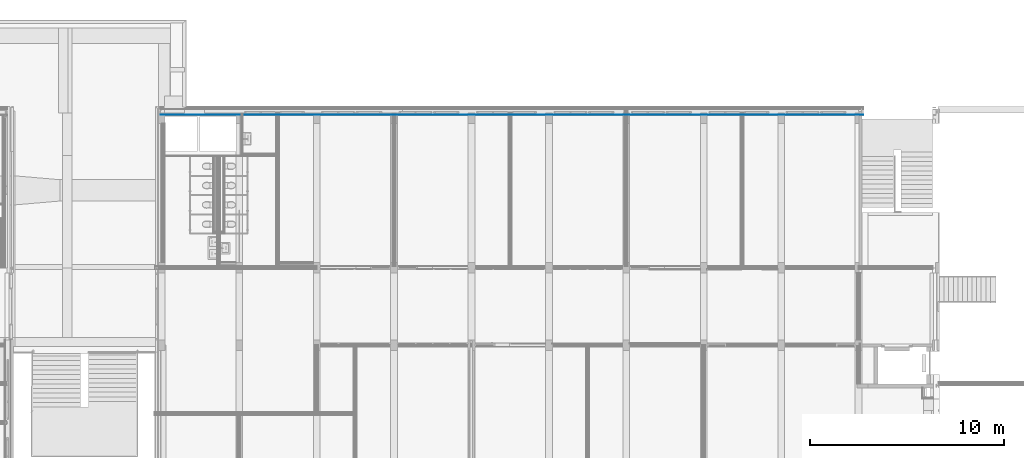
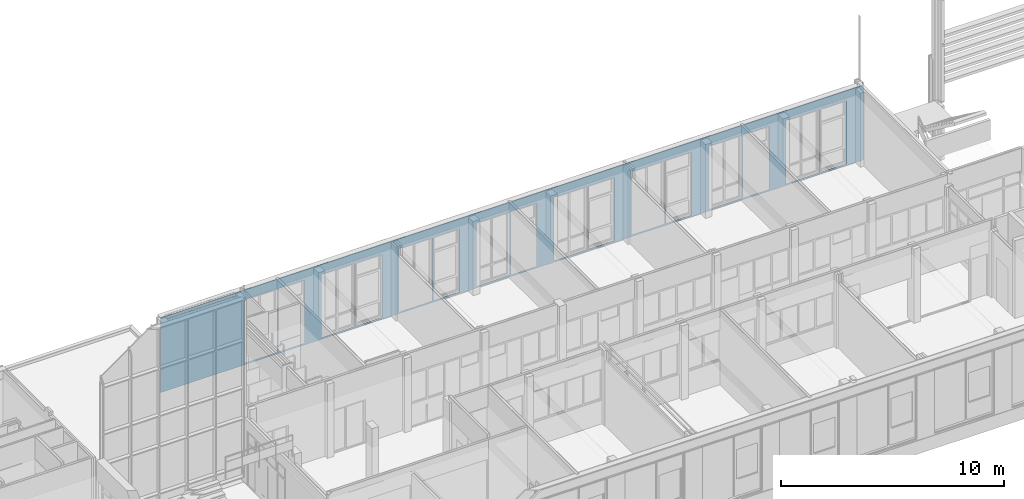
# One storey, part 58 of 94: 1 building element part, 16 openings, 1 element without a shape of its own.
"""IFC2X3 building model written with IfcOpenShell, lengths in millimetres."""

from ifc_helpers import new_model, entity, si_unit, converted_unit, derived_unit, money_unit, direction, frame, origin_with_axes, place, context, subcontext, project, spatial, faceted_brep, material, type_object, element, aggregate, save


model = new_model("IFC2X3")

# Units and contexts
model_context = context("Model", 3, precision=0.01, world=origin_with_axes(), true_north=direction((0.0, 1.0)))
body_context = subcontext(model_context, "Body", "Model", "MODEL_VIEW")
ifc_project = project(units=[si_unit("LENGTHUNIT", "METRE", prefix="MILLI"), si_unit("AREAUNIT", "SQUARE_METRE"), si_unit("VOLUMEUNIT", "CUBIC_METRE"), converted_unit("PLANEANGLEUNIT", "DEGREE", entity("IfcPlaneAngleMeasure", 0.0174532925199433), si_unit("PLANEANGLEUNIT", "RADIAN"), dimensions=[0, 0, 0, 0, 0, 0, 0]), money_unit("EUR"), converted_unit("TIMEUNIT", "Year", entity("IfcTimeMeasure", 31557600.0), si_unit("TIMEUNIT", "SECOND"), dimensions=[0, 0, 1, 0, 0, 0, 0]), si_unit("MASSUNIT", "GRAM", prefix="KILO"), si_unit("THERMODYNAMICTEMPERATUREUNIT", "DEGREE_CELSIUS"), si_unit("LUMINOUSINTENSITYUNIT", "LUMEN"), si_unit("ENERGYUNIT", "JOULE", prefix="MEGA"), derived_unit("THERMALCONDUCTANCEUNIT", [(si_unit("POWERUNIT", "WATT"), 1), (si_unit("LENGTHUNIT", "METRE"), -1), (si_unit("THERMODYNAMICTEMPERATUREUNIT", "KELVIN"), -1)]), derived_unit("SPECIFICHEATCAPACITYUNIT", [(si_unit("ENERGYUNIT", "JOULE"), 1), (si_unit("MASSUNIT", "GRAM", prefix="KILO"), -1), (si_unit("THERMODYNAMICTEMPERATUREUNIT", "KELVIN"), -1)]), derived_unit("MASSDENSITYUNIT", [(si_unit("MASSUNIT", "GRAM", prefix="KILO"), 1), (si_unit("VOLUMEUNIT", "CUBIC_METRE"), -1)])], contexts=[model_context])

# Site, building, storey
site_placement = place(None, origin_with_axes())
site = spatial("IfcSite", under=ifc_project, at=site_placement, Name="<site naam>", CompositionType="ELEMENT")
building_placement = place(site_placement, origin_with_axes())
building = spatial("IfcBuilding", under=site, at=building_placement, Name="<Naam gebouw>", CompositionType="ELEMENT")
storey_placement = place(building_placement, frame((0.0, 0.0, 4250.0), z_axis=(0.0, 0.0, 1.0), x_axis=(1.0, 0.0, 0.0)))
storey = spatial("IfcBuildingStorey", under=building, at=storey_placement, Name="01 1e verdieping", CompositionType="ELEMENT", Elevation=4250.0)

# Wall, openings, building element part
wall_type = type_object("IfcWallType", Name="HSB_285 gevelbeplating 420", PredefinedType="NOTDEFINED")
wall_placement = place(storey_placement, frame((48251.99999966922, 20298.00000000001, 0.0), z_axis=(0.0, 0.0, 1.0), x_axis=(-1.0, 0.0, 0.0)))
wall = element("IfcWall", 1, at=wall_placement, inside=storey, type_object=wall_type, Name="21_Binnenwand_HSB_285")
opening_1_placement = place(wall_placement, frame((3140.999999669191, 0.0, 99.99999999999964), z_axis=(0.0, 0.0, 1.0), x_axis=(1.0, 0.0, 0.0)))
element("IfcOpeningElement", 2, at=opening_1_placement, cuts=wall, Name="21_BU-A-12a sp_305", context=body_context, shape_type="Brep", body=[
    faceted_brep([(850.9999999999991, 213.000000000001, 3450.0), (-850.9999999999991, 213.000000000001, 3450.0), (-850.9999999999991, -1.000000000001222, 3450.0), (850.9999999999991, -1.000000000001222, 3450.0), (850.9999999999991, 421.000000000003, 3450.0), (-850.9999999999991, 421.000000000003, 3450.0), (-850.9999999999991, 213.000000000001, 0.0), (-850.9999999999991, -1.000000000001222, 0.0), (850.9999999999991, -1.000000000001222, 0.0), (850.9999999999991, 213.000000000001, 0.0), (850.9999999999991, 421.000000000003, 0.0), (-850.9999999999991, 421.000000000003, 0.0)], [[[0, 1, 2, 3]], [[1, 0, 4, 5]], [[1, 6, 7, 2]], [[2, 7, 8, 3]], [[9, 0, 3, 8]], [[0, 9, 10, 4]], [[4, 10, 11, 5]], [[6, 1, 5, 11]], [[6, 9, 8, 7]], [[9, 6, 11, 10]]]),
])
opening_2_placement = place(wall_placement, frame((1551.00001094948, 0.0, 99.99999999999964), z_axis=(0.0, 0.0, 1.0), x_axis=(1.0, 0.0, 0.0)))
element("IfcOpeningElement", 3, at=opening_2_placement, cuts=wall, Name="21_BU-A-12b sp_305", context=body_context, shape_type="Brep", body=[
    faceted_brep([(662.9999999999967, 213.000000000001, 3450.0), (-662.9999999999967, 213.000000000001, 3450.0), (-662.9999999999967, -1.000000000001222, 3450.0), (662.9999999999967, -1.000000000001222, 3450.0), (662.9999999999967, 421.000000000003, 3450.0), (-662.9999999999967, 421.000000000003, 3450.0), (-662.9999999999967, 213.000000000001, 0.0), (-662.9999999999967, -1.000000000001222, 0.0), (662.9999999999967, -1.000000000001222, 0.0), (662.9999999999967, 213.000000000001, 0.0), (662.9999999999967, 421.000000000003, 0.0), (-662.9999999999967, 421.000000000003, 0.0)], [[[0, 1, 2, 3]], [[1, 0, 4, 5]], [[1, 6, 7, 2]], [[2, 7, 8, 3]], [[9, 0, 3, 8]], [[0, 9, 10, 4]], [[4, 10, 11, 5]], [[6, 1, 5, 11]], [[6, 9, 8, 7]], [[9, 6, 11, 10]]]),
])
opening_3_placement = place(wall_placement, frame((7140.999999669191, 0.0, 99.99999999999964), z_axis=(0.0, 0.0, 1.0), x_axis=(1.0, 0.0, 0.0)))
element("IfcOpeningElement", 4, at=opening_3_placement, cuts=wall, Name="21_BU-A-12a sp_305", context=body_context, shape_type="Brep", body=[
    faceted_brep([(850.9999999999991, 213.000000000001, 3450.0), (-850.9999999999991, 213.000000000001, 3450.0), (-850.9999999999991, -1.000000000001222, 3450.0), (850.9999999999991, -1.000000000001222, 3450.0), (850.9999999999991, 421.000000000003, 3450.0), (-850.9999999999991, 421.000000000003, 3450.0), (-850.9999999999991, 213.000000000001, 0.0), (-850.9999999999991, -1.000000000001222, 0.0), (850.9999999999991, -1.000000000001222, 0.0), (850.9999999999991, 213.000000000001, 0.0), (850.9999999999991, 421.000000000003, 0.0), (-850.9999999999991, 421.000000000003, 0.0)], [[[0, 1, 2, 3]], [[1, 0, 4, 5]], [[1, 6, 7, 2]], [[2, 7, 8, 3]], [[9, 0, 3, 8]], [[0, 9, 10, 4]], [[4, 10, 11, 5]], [[6, 1, 5, 11]], [[6, 9, 8, 7]], [[9, 6, 11, 10]]]),
])
opening_4_placement = place(wall_placement, frame((9550.999999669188, 0.0, 99.99999999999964), z_axis=(0.0, 0.0, 1.0), x_axis=(1.0, 0.0, 0.0)))
element("IfcOpeningElement", 5, at=opening_4_placement, cuts=wall, Name="21_BU-A-12b sp_305", context=body_context, shape_type="Brep", body=[
    faceted_brep([(662.9999999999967, 213.000000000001, 3450.0), (-662.9999999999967, 213.000000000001, 3450.0), (-662.9999999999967, -1.000000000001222, 3450.0), (662.9999999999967, -1.000000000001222, 3450.0), (662.9999999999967, 421.000000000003, 3450.0), (-662.9999999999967, 421.000000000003, 3450.0), (-662.9999999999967, 213.000000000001, 0.0), (-662.9999999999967, -1.000000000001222, 0.0), (662.9999999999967, -1.000000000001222, 0.0), (662.9999999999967, 213.000000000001, 0.0), (662.9999999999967, 421.000000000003, 0.0), (-662.9999999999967, 421.000000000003, 0.0)], [[[0, 1, 2, 3]], [[1, 0, 4, 5]], [[1, 6, 7, 2]], [[2, 7, 8, 3]], [[9, 0, 3, 8]], [[0, 9, 10, 4]], [[4, 10, 11, 5]], [[6, 1, 5, 11]], [[6, 9, 8, 7]], [[9, 6, 11, 10]]]),
])
opening_5_placement = place(wall_placement, frame((11140.99999966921, 0.0, 99.99999999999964), z_axis=(0.0, 0.0, 1.0), x_axis=(1.0, 0.0, 0.0)))
element("IfcOpeningElement", 6, at=opening_5_placement, cuts=wall, Name="21_BU-A-12a sp_305", context=body_context, shape_type="Brep", body=[
    faceted_brep([(850.9999999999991, 213.000000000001, 3450.0), (-850.9999999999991, 213.000000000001, 3450.0), (-850.9999999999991, -1.000000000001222, 3450.0), (850.9999999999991, -1.000000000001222, 3450.0), (850.9999999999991, 421.000000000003, 3450.0), (-850.9999999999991, 421.000000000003, 3450.0), (-850.9999999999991, 213.000000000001, 0.0), (-850.9999999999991, -1.000000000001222, 0.0), (850.9999999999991, -1.000000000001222, 0.0), (850.9999999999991, 213.000000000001, 0.0), (850.9999999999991, 421.000000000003, 0.0), (-850.9999999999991, 421.000000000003, 0.0)], [[[0, 1, 2, 3]], [[1, 0, 4, 5]], [[1, 6, 7, 2]], [[2, 7, 8, 3]], [[9, 0, 3, 8]], [[0, 9, 10, 4]], [[4, 10, 11, 5]], [[6, 1, 5, 11]], [[6, 9, 8, 7]], [[9, 6, 11, 10]]]),
])
opening_6_placement = place(wall_placement, frame((15140.99998838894, 0.0, 99.99999999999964), z_axis=(0.0, 0.0, 1.0), x_axis=(1.0, 0.0, 0.0)))
element("IfcOpeningElement", 7, at=opening_6_placement, cuts=wall, Name="21_BU-A-12a sp_305", context=body_context, shape_type="Brep", body=[
    faceted_brep([(850.9999999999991, 212.9999999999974, 3450.0), (-850.9999999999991, 212.9999999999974, 3450.0), (-850.9999999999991, -1.000000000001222, 3450.0), (850.9999999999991, -1.000000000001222, 3450.0), (850.9999999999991, 421.000000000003, 3450.0), (-850.9999999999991, 421.000000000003, 3450.0), (-850.9999999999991, 212.9999999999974, 0.0), (-850.9999999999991, -1.000000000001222, 0.0), (850.9999999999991, -1.000000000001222, 0.0), (850.9999999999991, 212.9999999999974, 0.0), (850.9999999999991, 421.000000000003, 0.0), (-850.9999999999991, 421.000000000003, 0.0)], [[[0, 1, 2, 3]], [[1, 0, 4, 5]], [[1, 6, 7, 2]], [[2, 7, 8, 3]], [[9, 0, 3, 8]], [[0, 9, 10, 4]], [[4, 10, 11, 5]], [[6, 1, 5, 11]], [[6, 9, 8, 7]], [[9, 6, 11, 10]]]),
])
opening_7_placement = place(wall_placement, frame((13550.99999966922, 0.0, 99.99999999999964), z_axis=(0.0, 0.0, 1.0), x_axis=(1.0, 0.0, 0.0)))
element("IfcOpeningElement", 8, at=opening_7_placement, cuts=wall, Name="21_BU-A-12b sp_305", context=body_context, shape_type="Brep", body=[
    faceted_brep([(662.9999999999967, 213.000000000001, 3450.0), (-662.9999999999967, 213.000000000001, 3450.0), (-662.9999999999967, -1.000000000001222, 3450.0), (662.9999999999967, -1.000000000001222, 3450.0), (662.9999999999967, 421.000000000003, 3450.0), (-662.9999999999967, 421.000000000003, 3450.0), (-662.9999999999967, 213.000000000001, 0.0), (-662.9999999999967, -1.000000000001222, 0.0), (662.9999999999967, -1.000000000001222, 0.0), (662.9999999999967, 213.000000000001, 0.0), (662.9999999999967, 421.000000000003, 0.0), (-662.9999999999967, 421.000000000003, 0.0)], [[[0, 1, 2, 3]], [[1, 0, 4, 5]], [[1, 6, 7, 2]], [[2, 7, 8, 3]], [[9, 0, 3, 8]], [[0, 9, 10, 4]], [[4, 10, 11, 5]], [[6, 1, 5, 11]], [[6, 9, 8, 7]], [[9, 6, 11, 10]]]),
])
opening_8_placement = place(wall_placement, frame((19140.98053610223, 0.0, 99.99999999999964), z_axis=(0.0, 0.0, 1.0), x_axis=(1.0, 0.0, 0.0)))
element("IfcOpeningElement", 9, at=opening_8_placement, cuts=wall, Name="21_BU-A-12a sp_305", context=body_context, shape_type="Brep", body=[
    faceted_brep([(850.9999999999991, 212.9999999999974, 3450.0), (-850.9999999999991, 212.9999999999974, 3450.0), (-850.9999999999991, -1.000000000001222, 3450.0), (850.9999999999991, -1.000000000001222, 3450.0), (850.9999999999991, 421.000000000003, 3450.0), (-850.9999999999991, 421.000000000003, 3450.0), (-850.9999999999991, 212.9999999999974, 0.0), (-850.9999999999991, -1.000000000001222, 0.0), (850.9999999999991, -1.000000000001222, 0.0), (850.9999999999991, 212.9999999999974, 0.0), (850.9999999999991, 421.000000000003, 0.0), (-850.9999999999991, 421.000000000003, 0.0)], [[[0, 1, 2, 3]], [[1, 0, 4, 5]], [[1, 6, 7, 2]], [[2, 7, 8, 3]], [[9, 0, 3, 8]], [[0, 9, 10, 4]], [[4, 10, 11, 5]], [[6, 1, 5, 11]], [[6, 9, 8, 7]], [[9, 6, 11, 10]]]),
])
opening_9_placement = place(wall_placement, frame((17550.99999966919, 0.0, 99.99999999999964), z_axis=(0.0, 0.0, 1.0), x_axis=(1.0, 0.0, 0.0)))
element("IfcOpeningElement", 10, at=opening_9_placement, cuts=wall, Name="21_BU-A-12b sp_305", context=body_context, shape_type="Brep", body=[
    faceted_brep([(663.0000000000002, 212.9999999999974, 3450.0), (-663.0000000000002, 212.9999999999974, 3450.0), (-663.0000000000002, -1.000000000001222, 3450.0), (663.0000000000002, -1.000000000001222, 3450.0), (663.0000000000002, 421.000000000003, 3450.0), (-663.0000000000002, 421.000000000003, 3450.0), (-663.0000000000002, 212.9999999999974, 0.0), (-663.0000000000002, -1.000000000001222, 0.0), (663.0000000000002, -1.000000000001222, 0.0), (663.0000000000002, 212.9999999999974, 0.0), (663.0000000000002, 421.000000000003, 0.0), (-663.0000000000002, 421.000000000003, 0.0)], [[[0, 1, 2, 3]], [[1, 0, 4, 5]], [[1, 6, 7, 2]], [[2, 7, 8, 3]], [[9, 0, 3, 8]], [[0, 9, 10, 4]], [[4, 10, 11, 5]], [[6, 1, 5, 11]], [[6, 9, 8, 7]], [[9, 6, 11, 10]]]),
])
opening_10_placement = place(wall_placement, frame((5550.999999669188, 0.0, 99.99999999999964), z_axis=(0.0, 0.0, 1.0), x_axis=(1.0, 0.0, 0.0)))
element("IfcOpeningElement", 11, at=opening_10_placement, cuts=wall, Name="21_BU-A-12b sp_305", context=body_context, shape_type="Brep", body=[
    faceted_brep([(662.9999999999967, 213.000000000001, 3450.0), (-662.9999999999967, 213.000000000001, 3450.0), (-662.9999999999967, -1.000000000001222, 3450.0), (662.9999999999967, -1.000000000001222, 3450.0), (662.9999999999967, 421.000000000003, 3450.0), (-662.9999999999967, 421.000000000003, 3450.0), (-662.9999999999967, 213.000000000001, 0.0), (-662.9999999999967, -1.000000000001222, 0.0), (662.9999999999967, -1.000000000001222, 0.0), (662.9999999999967, 213.000000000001, 0.0), (662.9999999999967, 421.000000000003, 0.0), (-662.9999999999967, 421.000000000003, 0.0)], [[[0, 1, 2, 3]], [[1, 0, 4, 5]], [[1, 6, 7, 2]], [[2, 7, 8, 3]], [[9, 0, 3, 8]], [[0, 9, 10, 4]], [[4, 10, 11, 5]], [[6, 1, 5, 11]], [[6, 9, 8, 7]], [[9, 6, 11, 10]]]),
])
opening_11_placement = place(wall_placement, frame((23141.0125073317, 0.0, 99.99999999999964), z_axis=(0.0, 0.0, 1.0), x_axis=(1.0, 0.0, 0.0)))
element("IfcOpeningElement", 12, at=opening_11_placement, cuts=wall, Name="21_BU-A-12a sp_305", context=body_context, shape_type="Brep", body=[
    faceted_brep([(850.9999999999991, 212.9999999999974, 3450.0), (-850.9999999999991, 212.9999999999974, 3450.0), (-850.9999999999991, -1.000000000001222, 3450.0), (850.9999999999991, -1.000000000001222, 3450.0), (850.9999999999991, 421.000000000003, 3450.0), (-850.9999999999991, 421.000000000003, 3450.0), (-850.9999999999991, 212.9999999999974, 0.0), (-850.9999999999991, -1.000000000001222, 0.0), (850.9999999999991, -1.000000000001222, 0.0), (850.9999999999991, 212.9999999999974, 0.0), (850.9999999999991, 421.000000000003, 0.0), (-850.9999999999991, 421.000000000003, 0.0)], [[[0, 1, 2, 3]], [[1, 0, 4, 5]], [[1, 6, 7, 2]], [[2, 7, 8, 3]], [[9, 0, 3, 8]], [[0, 9, 10, 4]], [[4, 10, 11, 5]], [[6, 1, 5, 11]], [[6, 9, 8, 7]], [[9, 6, 11, 10]]]),
])
opening_12_placement = place(wall_placement, frame((21550.98053610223, 0.0, 99.99999999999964), z_axis=(0.0, 0.0, 1.0), x_axis=(1.0, 0.0, 0.0)))
element("IfcOpeningElement", 13, at=opening_12_placement, cuts=wall, Name="21_BU-A-12b sp_305", context=body_context, shape_type="Brep", body=[
    faceted_brep([(663.0000000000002, 212.9999999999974, 3450.0), (-663.0000000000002, 212.9999999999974, 3450.0), (-663.0000000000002, -1.000000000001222, 3450.0), (663.0000000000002, -1.000000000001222, 3450.0), (663.0000000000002, 421.000000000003, 3450.0), (-663.0000000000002, 421.000000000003, 3450.0), (-663.0000000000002, 212.9999999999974, 0.0), (-663.0000000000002, -1.000000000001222, 0.0), (663.0000000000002, -1.000000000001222, 0.0), (663.0000000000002, 212.9999999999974, 0.0), (663.0000000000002, 421.000000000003, 0.0), (-663.0000000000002, 421.000000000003, 0.0)], [[[0, 1, 2, 3]], [[1, 0, 4, 5]], [[1, 6, 7, 2]], [[2, 7, 8, 3]], [[9, 0, 3, 8]], [[0, 9, 10, 4]], [[4, 10, 11, 5]], [[6, 1, 5, 11]], [[6, 9, 8, 7]], [[9, 6, 11, 10]]]),
])
opening_13_placement = place(wall_placement, frame((25550.99999966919, 0.0, 99.99999999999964), z_axis=(0.0, 0.0, 1.0), x_axis=(1.0, 0.0, 0.0)))
element("IfcOpeningElement", 14, at=opening_13_placement, cuts=wall, Name="21_BU-A-12b sp_305", context=body_context, shape_type="Brep", body=[
    faceted_brep([(663.0000000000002, 212.9999999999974, 3450.0), (-663.0000000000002, 212.9999999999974, 3450.0), (-663.0000000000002, -1.000000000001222, 3450.0), (663.0000000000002, -1.000000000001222, 3450.0), (663.0000000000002, 421.000000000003, 3450.0), (-663.0000000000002, 421.000000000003, 3450.0), (-663.0000000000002, 212.9999999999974, 0.0), (-663.0000000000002, -1.000000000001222, 0.0), (663.0000000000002, -1.000000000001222, 0.0), (663.0000000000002, 212.9999999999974, 0.0), (663.0000000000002, 421.000000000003, 0.0), (-663.0000000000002, 421.000000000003, 0.0)], [[[0, 1, 2, 3]], [[1, 0, 4, 5]], [[1, 6, 7, 2]], [[2, 7, 8, 3]], [[9, 0, 3, 8]], [[0, 9, 10, 4]], [[4, 10, 11, 5]], [[6, 1, 5, 11]], [[6, 9, 8, 7]], [[9, 6, 11, 10]]]),
])
opening_14_placement = place(wall_placement, frame((27140.99999966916, 0.0, 99.99999999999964), z_axis=(0.0, 0.0, 1.0), x_axis=(1.0, 0.0, 0.0)))
element("IfcOpeningElement", 15, at=opening_14_placement, cuts=wall, Name="21_BU-A-12a sp_305", context=body_context, shape_type="Brep", body=[
    faceted_brep([(850.9999999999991, 212.9999999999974, 3450.0), (-850.9999999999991, 212.9999999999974, 3450.0), (-850.9999999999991, -1.000000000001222, 3450.0), (850.9999999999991, -1.000000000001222, 3450.0), (850.9999999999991, 421.000000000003, 3450.0), (-850.9999999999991, 421.000000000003, 3450.0), (-850.9999999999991, 212.9999999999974, 0.0), (-850.9999999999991, -1.000000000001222, 0.0), (850.9999999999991, -1.000000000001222, 0.0), (850.9999999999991, 212.9999999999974, 0.0), (850.9999999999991, 421.000000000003, 0.0), (-850.9999999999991, 421.000000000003, 0.0)], [[[0, 1, 2, 3]], [[1, 0, 4, 5]], [[1, 6, 7, 2]], [[2, 7, 8, 3]], [[9, 0, 3, 8]], [[0, 9, 10, 4]], [[4, 10, 11, 5]], [[6, 1, 5, 11]], [[6, 9, 8, 7]], [[9, 6, 11, 10]]]),
])
opening_15_placement = place(wall_placement, frame((29551.00001094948, 0.0, 99.99999999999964), z_axis=(0.0, 0.0, 1.0), x_axis=(1.0, 0.0, 0.0)))
element("IfcOpeningElement", 16, at=opening_15_placement, cuts=wall, Name="21_BU-A-12b sp_305", context=body_context, shape_type="Brep", body=[
    faceted_brep([(663.0000000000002, 212.9999999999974, 3450.0), (-663.0000000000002, 212.9999999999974, 3450.0), (-663.0000000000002, -1.000000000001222, 3450.0), (663.0000000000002, -1.000000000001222, 3450.0), (663.0000000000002, 421.000000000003, 3450.0), (-663.0000000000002, 421.000000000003, 3450.0), (-663.0000000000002, 212.9999999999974, 0.0), (-663.0000000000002, -1.000000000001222, 0.0), (663.0000000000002, -1.000000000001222, 0.0), (663.0000000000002, 212.9999999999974, 0.0), (663.0000000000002, 421.000000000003, 0.0), (-663.0000000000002, 421.000000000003, 0.0)], [[[0, 1, 2, 3]], [[1, 0, 4, 5]], [[1, 6, 7, 2]], [[2, 7, 8, 3]], [[9, 0, 3, 8]], [[0, 9, 10, 4]], [[4, 10, 11, 5]], [[6, 1, 5, 11]], [[6, 9, 8, 7]], [[9, 6, 11, 10]]]),
])
opening_16_placement = place(wall_placement, frame((31140.99998838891, 0.0, 99.99999999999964), z_axis=(0.0, 0.0, 1.0), x_axis=(1.0, 0.0, 0.0)))
element("IfcOpeningElement", 17, at=opening_16_placement, cuts=wall, Name="21_BU-A-12a sp_305", context=body_context, shape_type="Brep", body=[
    faceted_brep([(850.9999999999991, 212.9999999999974, 3450.0), (-850.9999999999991, 212.9999999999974, 3450.0), (-850.9999999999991, -1.000000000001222, 3450.0), (850.9999999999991, -1.000000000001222, 3450.0), (850.9999999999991, 421.000000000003, 3450.0), (-850.9999999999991, 421.000000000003, 3450.0), (-850.9999999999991, 212.9999999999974, 0.0), (-850.9999999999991, -1.000000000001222, 0.0), (850.9999999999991, -1.000000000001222, 0.0), (850.9999999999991, 212.9999999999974, 0.0), (850.9999999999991, 421.000000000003, 0.0), (-850.9999999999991, 421.000000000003, 0.0)], [[[0, 1, 2, 3]], [[1, 0, 4, 5]], [[1, 6, 7, 2]], [[2, 7, 8, 3]], [[9, 0, 3, 8]], [[0, 9, 10, 4]], [[4, 10, 11, 5]], [[6, 1, 5, 11]], [[6, 9, 8, 7]], [[9, 6, 11, 10]]]),
])
ifc_material = material(Name="folie_dampdicht")
building_element_part_placement = place(wall_placement, origin_with_axes())
building_element_part = element("IfcBuildingElementPart", 18, at=building_element_part_placement, material=ifc_material, Name="folie_dampdicht", context=body_context, shape_type="Brep", body=[
    faceted_brep([(32426.99999966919, 391.9999999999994, 4100.0), (76.92214540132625, 392.000000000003, 4100.0), (76.92214540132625, 391.9999999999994, 4250.0), (0.0, 391.9999999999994, 4250.0), (0.0, 391.9999999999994, 0.0), (12426.99985761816, 391.9999999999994, 0.0), (12426.99985761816, 392.000000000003, 3.000000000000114), (16076.99985984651, 391.9999999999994, 3.000000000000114), (16076.99985984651, 391.9999999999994, 0.0), (16426.99993484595, 391.9999999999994, 0.0), (16426.99993484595, 392.000000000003, 3.000000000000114), (18176.86513133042, 391.9999999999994, 3.000000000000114), (18176.86513133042, 391.9999999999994, 0.0), (18326.86255402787, 391.9999999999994, 0.0), (18326.86255402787, 392.000000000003, 3.000000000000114), (20076.98057049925, 391.9999999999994, 3.000000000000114), (20076.98057049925, 391.9999999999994, 0.0), (20427.00000146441, 391.9999999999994, 0.0), (20427.00000146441, 392.000000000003, 3.000000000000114), (24076.99999971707, 391.9999999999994, 3.000000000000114), (24076.99999971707, 391.9999999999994, 0.0), (30327.06166482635, 391.9999999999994, 0.0), (30327.06166482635, 391.9999999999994, 3.000000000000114), (32077.00006361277, 391.9999999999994, 3.000000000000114), (32077.00006361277, 391.9999999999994, 0.0), (36316.99999966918, 391.9999999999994, 0.0), (36316.99999966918, 391.9999999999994, 4100.0), (36076.99999966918, 391.9999999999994, 4100.0), (36076.99999966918, 391.9999999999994, 4090.499903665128), (32426.99999966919, 391.9999999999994, 4090.499903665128), (24427.00006108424, 391.9999999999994, 22.99999999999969), (28077.00005377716, 391.9999999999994, 22.99999999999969), (28077.00005377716, 391.9999999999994, 19.99999999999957), (24427.00006108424, 391.9999999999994, 19.99999999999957), (28426.99998301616, 391.9999999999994, 22.99999999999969), (30177.06159675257, 391.9999999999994, 22.99999999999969), (30177.06159675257, 391.9999999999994, 19.99999999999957), (28426.99998301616, 391.9999999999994, 19.99999999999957), (6326.99981685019, 392.000000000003, 22.99999999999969), (8077.00010120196, 392.000000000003, 22.99999999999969), (8077.00010120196, 392.000000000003, 19.99999999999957), (6326.99981685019, 392.000000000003, 19.99999999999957), (8427.000063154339, 392.000000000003, 22.99999999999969), (12076.9999884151, 391.9999999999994, 22.99999999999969), (12076.9999884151, 392.000000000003, 19.99999999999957), (8427.000063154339, 392.000000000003, 19.99999999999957), (427.0000192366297, 392.000000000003, 22.99999999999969), (4076.999959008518, 392.000000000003, 22.99999999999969), (4076.999959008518, 392.000000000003, 19.99999999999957), (427.0000192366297, 392.000000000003, 19.99999999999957), (4426.999980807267, 392.000000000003, 22.99999999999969), (6176.999971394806, 392.000000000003, 22.99999999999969), (6176.999971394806, 392.000000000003, 19.99999999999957), (4426.999980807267, 392.000000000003, 19.99999999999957), (36076.99999966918, 391.9999999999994, 3938.499955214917), (36076.99999966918, 391.9999999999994, 3928.999844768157), (32426.99999966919, 391.9999999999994, 3928.999844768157), (32426.99999966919, 391.9999999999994, 3938.499955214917), (32426.99999966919, 392.4999999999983, 4100.0), (76.92214540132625, 392.5000000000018, 4100.0), (76.92214540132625, 392.5000000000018, 4250.0), (0.0, 392.5000000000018, 4250.0), (0.0, 392.4999999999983, 0.0), (12426.99985761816, 392.4999999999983, 0.0), (12426.99985761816, 392.4999999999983, 3.000000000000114), (16076.99985984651, 392.4999999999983, 3.000000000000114), (16076.99985984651, 392.4999999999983, 0.0), (16426.99993484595, 392.4999999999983, 0.0), (16426.99993484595, 392.4999999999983, 3.000000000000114), (18176.86513133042, 392.4999999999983, 3.000000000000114), (18176.86513133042, 392.4999999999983, 0.0), (18326.86255402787, 392.4999999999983, 0.0), (18326.86255402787, 392.4999999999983, 3.000000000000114), (20076.98057049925, 392.4999999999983, 3.000000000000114), (20076.98057049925, 392.4999999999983, 0.0), (20427.00000146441, 392.4999999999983, 0.0), (20427.00000146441, 392.4999999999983, 3.000000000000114), (24076.99999971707, 392.4999999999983, 3.000000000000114), (24076.99999971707, 392.4999999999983, 0.0), (30327.06166482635, 392.4999999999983, 0.0), (30327.06166482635, 392.4999999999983, 3.000000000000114), (32077.00006360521, 392.4999999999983, 3.000000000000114), (32077.00006360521, 392.4999999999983, 0.0), (36316.99999966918, 392.4999999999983, 0.0), (36316.99999966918, 392.4999999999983, 4100.0), (36076.99999966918, 392.4999999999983, 4100.0), (36076.99999966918, 392.4999999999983, 4090.499903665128), (32426.99999966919, 392.4999999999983, 4090.499903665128), (24427.00006108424, 392.4999999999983, 22.99999999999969), (28077.00005377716, 392.4999999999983, 22.99999999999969), (28077.00005377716, 392.4999999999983, 19.99999999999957), (24427.00006108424, 392.4999999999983, 19.99999999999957), (28426.99998301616, 392.4999999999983, 22.99999999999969), (30177.06159675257, 392.4999999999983, 22.99999999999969), (30177.06159675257, 392.4999999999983, 19.99999999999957), (28426.99998301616, 392.4999999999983, 19.99999999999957), (6326.99981685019, 392.4999999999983, 22.99999999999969), (8077.00010120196, 392.4999999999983, 22.99999999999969), (8077.00010120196, 392.4999999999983, 19.99999999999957), (6326.99981685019, 392.5000000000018, 19.99999999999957), (8427.000063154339, 392.4999999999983, 22.99999999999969), (12076.9999884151, 392.4999999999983, 22.99999999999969), (12076.9999884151, 392.4999999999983, 19.99999999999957), (8427.000063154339, 392.5000000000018, 19.99999999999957), (427.0000192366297, 392.4999999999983, 22.99999999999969), (4076.999959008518, 392.5000000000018, 22.99999999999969), (4076.999959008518, 392.4999999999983, 19.99999999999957), (427.0000192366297, 392.5000000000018, 19.99999999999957), (4426.999980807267, 392.4999999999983, 22.99999999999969), (6176.999971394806, 392.5000000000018, 22.99999999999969), (6176.999971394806, 392.4999999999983, 19.99999999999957), (4426.999980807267, 392.5000000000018, 19.99999999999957), (36076.99999966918, 392.4999999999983, 3928.999844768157), (36076.99999966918, 392.4999999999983, 3938.499955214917), (32426.99999966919, 392.4999999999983, 3928.999844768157), (32426.99999966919, 392.4999999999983, 3938.499955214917)], [[[0, 1, 2, 3, 4, 5, 6, 7, 8, 9, 10, 11, 12, 13, 14, 15, 16, 17, 18, 19, 20, 21, 22, 23, 24, 25, 26, 27, 28, 29], [30, 31, 32, 33], [34, 35, 36, 37], [38, 39, 40, 41], [42, 43, 44, 45], [46, 47, 48, 49], [50, 51, 52, 53], [54, 55, 56, 57]], [[1, 0, 58, 59]], [[60, 2, 1, 59]], [[2, 60, 61, 3]], [[4, 3, 61, 62]], [[4, 62, 63, 5]], [[63, 64, 6, 5]], [[64, 65, 7, 6]], [[65, 66, 8, 7]], [[8, 66, 67, 9]], [[67, 68, 10, 9]], [[68, 69, 11, 10]], [[69, 70, 12, 11]], [[71, 13, 12, 70]], [[71, 72, 14, 13]], [[72, 73, 15, 14]], [[73, 74, 16, 15]], [[16, 74, 75, 17]], [[75, 76, 18, 17]], [[76, 77, 19, 18]], [[77, 78, 20, 19]], [[20, 78, 79, 21]], [[79, 80, 22, 21]], [[80, 81, 23, 22]], [[81, 82, 24, 23]], [[83, 25, 24, 82]], [[84, 26, 25, 83]], [[85, 27, 26, 84]], [[27, 85, 86, 28]], [[87, 29, 28, 86]], [[58, 0, 29, 87]], [[88, 89, 31, 30]], [[89, 90, 32, 31]], [[90, 91, 33, 32]], [[91, 88, 30, 33]], [[92, 93, 35, 34]], [[93, 94, 36, 35]], [[94, 95, 37, 36]], [[95, 92, 34, 37]], [[96, 97, 39, 38]], [[97, 98, 40, 39]], [[98, 99, 41, 40]], [[99, 96, 38, 41]], [[100, 101, 43, 42]], [[101, 102, 44, 43]], [[102, 103, 45, 44]], [[103, 100, 42, 45]], [[104, 105, 47, 46]], [[105, 106, 48, 47]], [[106, 107, 49, 48]], [[107, 104, 46, 49]], [[108, 109, 51, 50]], [[109, 110, 52, 51]], [[110, 111, 53, 52]], [[111, 108, 50, 53]], [[112, 55, 54, 113]], [[114, 56, 55, 112]], [[115, 57, 56, 114]], [[113, 54, 57, 115]], [[59, 58, 87, 86, 85, 84, 83, 82, 81, 80, 79, 78, 77, 76, 75, 74, 73, 72, 71, 70, 69, 68, 67, 66, 65, 64, 63, 62, 61, 60], [88, 91, 90, 89], [92, 95, 94, 93], [96, 99, 98, 97], [100, 103, 102, 101], [104, 107, 106, 105], [108, 111, 110, 109], [114, 112, 113, 115]]]),
])
aggregate(wall, [building_element_part])

save(model, "model.ifc")
